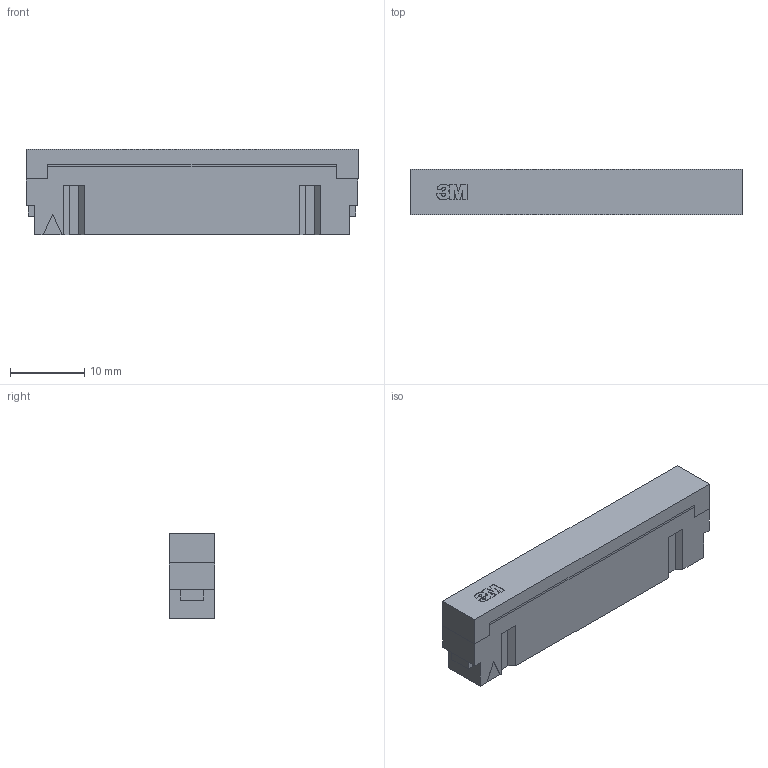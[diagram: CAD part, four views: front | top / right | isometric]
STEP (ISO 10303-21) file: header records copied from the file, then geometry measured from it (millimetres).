
FILE_DESCRIPTION(/* description */ (''),/* implementation_level */ '2;1');
FILE_NAME(/* name */ '82060-6000_step.stp',/* time_stamp */ '2009-08-26T14:42:16-05:00',/* author */ (''),/* organization */ (''),/* preprocessor_version */ 'ST-DEVELOPER v11',/* originating_system */ 'UGS - NX 5.0',/* authorisation */ '');
FILE_SCHEMA (('CONFIG_CONTROL_DESIGN'));
Length unit declared in the file: inch
Products named in the file (1): 78-5110-5338-7
Bounding box: 44.63 x 6.1 x 11.53 mm (x, y, z)
Volume: 3123.9 mm3; surface area: 2357.5 mm2
Topology: 2 solids, 2 shells, 375 faces, 927 edges, 618 vertices
Faces by surface type: plane 369, extrusion 6
Entity records: 11201 total; most frequent: CARTESIAN_POINT 2285, ORIENTED_EDGE 1854, DIRECTION 1618, EDGE_CURVE 927, VECTOR 878, LINE 872, VERTEX_POINT 618, EDGE_LOOP 437
